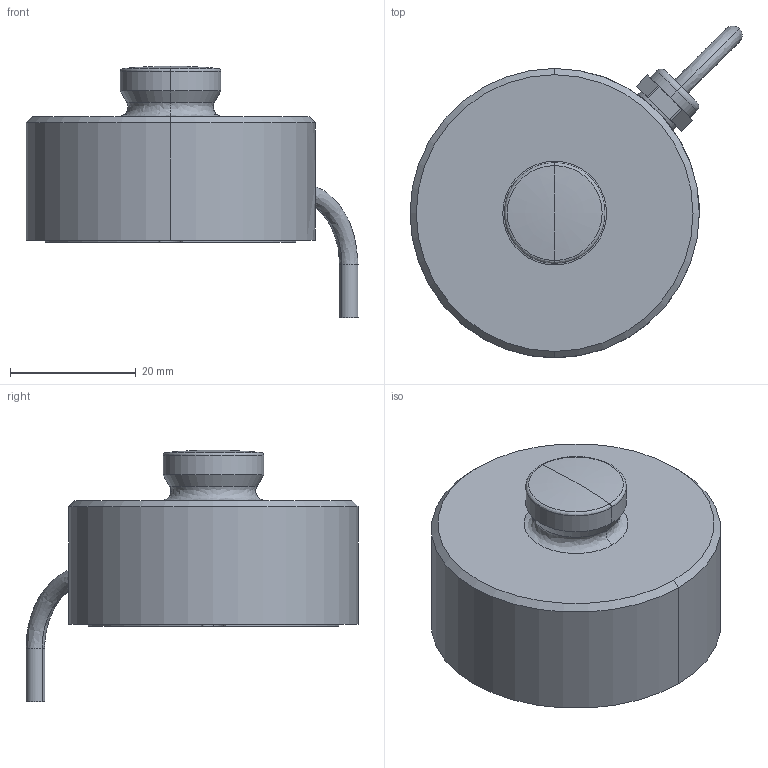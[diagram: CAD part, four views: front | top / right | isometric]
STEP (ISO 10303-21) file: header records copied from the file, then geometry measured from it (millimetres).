
FILE_DESCRIPTION((''),'2;1');
FILE_NAME('C9C_50KN','2018-11-30T',('esche'),(''),'CREO PARAMETRIC BY PTC INC, 2017170','CREO PARAMETRIC BY PTC INC, 2017170','');
FILE_SCHEMA(('CONFIG_CONTROL_DESIGN'));
Length unit declared in the file: millimetre
Products named in the file (1): C9C_50KN
Bounding box: 52.79 x 52.79 x 40 mm (x, y, z)
Volume: 34058.3 mm3; surface area: 7605.2 mm2
Topology: 1 solids, 1 shells, 90 faces, 216 edges, 129 vertices
Faces by surface type: bspline 90
Entity records: 4368 total; most frequent: CARTESIAN_POINT 2447, ORIENTED_EDGE 412, DIRECTION 316, EDGE_CURVE 206, VERTEX_POINT 129, AXIS2_PLACEMENT_3D 116, CIRCLE 116, EDGE_LOOP 101
